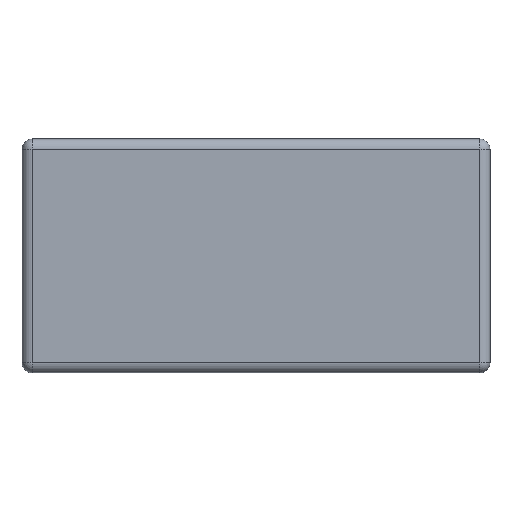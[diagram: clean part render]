
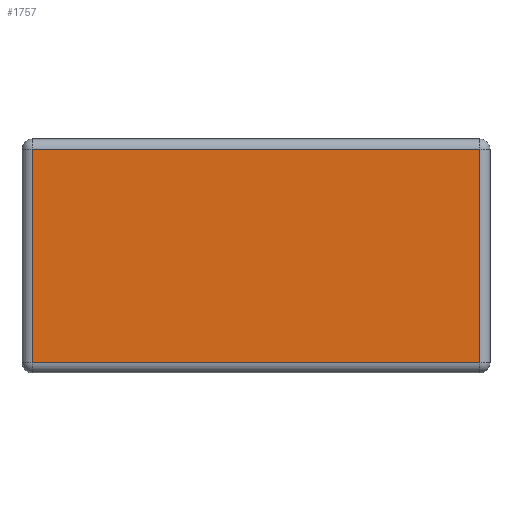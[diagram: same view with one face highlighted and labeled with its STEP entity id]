
A CAD part, front view. The second image highlights one B-rep face of the part: STEP entity #1757.
In plain terms, the highlighted planar face has unit normal (0, -1, 0).
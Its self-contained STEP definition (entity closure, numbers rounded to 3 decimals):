
#26 = VECTOR ( 'NONE', #1179, 1000. ) ;
#67 = EDGE_LOOP ( 'NONE', ( #1544, #609, #1412, #668 ) ) ;
#129 = VERTEX_POINT ( 'NONE', #1217 ) ;
#139 = EDGE_CURVE ( 'NONE', #129, #1540, #1952, .T. ) ;
#176 = PLANE ( 'NONE',  #907 ) ;
#199 = VECTOR ( 'NONE', #2069, 1000. ) ;
#334 = CARTESIAN_POINT ( 'NONE',  ( -26.552, 0., 0. ) ) ;
#516 = CARTESIAN_POINT ( 'NONE',  ( 0., 0., 0. ) ) ;
#527 = EDGE_CURVE ( 'NONE', #694, #1577, #2111, .T. ) ;
#555 = LINE ( 'NONE', #1360, #1799 ) ;
#609 = ORIENTED_EDGE ( 'NONE', *, *, #527, .T. ) ;
#668 = ORIENTED_EDGE ( 'NONE', *, *, #139, .T. ) ;
#694 = VERTEX_POINT ( 'NONE', #1457 ) ;
#856 = DIRECTION ( 'NONE',  ( 0., 1., 0. ) ) ;
#877 = CARTESIAN_POINT ( 'NONE',  ( 0., 0., -15.188 ) ) ;
#884 = CARTESIAN_POINT ( 'NONE',  ( 0., 0., 25.812 ) ) ;
#902 = DIRECTION ( 'NONE',  ( -1., 0., 0. ) ) ;
#907 = AXIS2_PLACEMENT_3D ( 'NONE', #516, #856, #2046 ) ;
#1057 = FACE_OUTER_BOUND ( 'NONE', #67, .T. ) ;
#1142 = CARTESIAN_POINT ( 'NONE',  ( -26.552, 0., 25.812 ) ) ;
#1179 = DIRECTION ( 'NONE',  ( 0., 0., -1. ) ) ;
#1190 = DIRECTION ( 'NONE',  ( 0., 0., 1. ) ) ;
#1208 = VECTOR ( 'NONE', #902, 1000. ) ;
#1217 = CARTESIAN_POINT ( 'NONE',  ( -26.552, 0., -15.188 ) ) ;
#1360 = CARTESIAN_POINT ( 'NONE',  ( 59.448, 0., 0. ) ) ;
#1384 = LINE ( 'NONE', #334, #26 ) ;
#1412 = ORIENTED_EDGE ( 'NONE', *, *, #1440, .T. ) ;
#1440 = EDGE_CURVE ( 'NONE', #1577, #129, #1384, .T. ) ;
#1457 = CARTESIAN_POINT ( 'NONE',  ( 59.448, 0., 25.812 ) ) ;
#1540 = VERTEX_POINT ( 'NONE', #2133 ) ;
#1544 = ORIENTED_EDGE ( 'NONE', *, *, #1817, .T. ) ;
#1577 = VERTEX_POINT ( 'NONE', #1142 ) ;
#1757 = ADVANCED_FACE ( 'NONE', ( #1057 ), #176, .F. ) ;
#1799 = VECTOR ( 'NONE', #1190, 1000. ) ;
#1817 = EDGE_CURVE ( 'NONE', #1540, #694, #555, .T. ) ;
#1952 = LINE ( 'NONE', #877, #199 ) ;
#2046 = DIRECTION ( 'NONE',  ( 0., 0., 1. ) ) ;
#2069 = DIRECTION ( 'NONE',  ( 1., 0., 0. ) ) ;
#2111 = LINE ( 'NONE', #884, #1208 ) ;
#2133 = CARTESIAN_POINT ( 'NONE',  ( 59.448, 0., -15.188 ) ) ;
